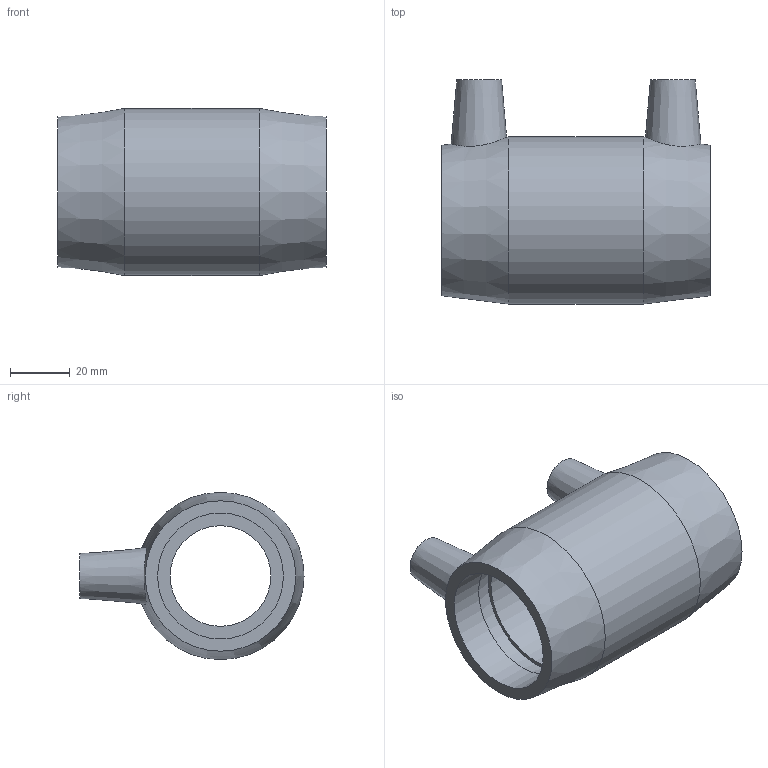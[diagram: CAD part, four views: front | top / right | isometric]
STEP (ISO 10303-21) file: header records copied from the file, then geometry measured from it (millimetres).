
FILE_DESCRIPTION(/* description */ ('PLASSON CTS COUPLER 1 1/4'''''),/* implementation_level */ '2;1');
FILE_NAME(/* name */ 'C:\Dropbox\KIMPROJECTS-Inventor 2019\99-16-3568-Processing Inch\ASTM ElectroFusion 2021\5901U\5901U004013.ipt.stp',/* time_stamp */ '2021-08-30T09:49:29+03:00',/* author */ ('KIM'),/* organization */ (''),/* preprocessor_version */ 'ST-DEVELOPER v17.2',/* originating_system */ 'Autodesk Inventor 2019',/* authorisation */ '');
FILE_SCHEMA (('AUTOMOTIVE_DESIGN { 1 0 10303 214 3 1 1 }'));
Length unit declared in the file: inch
Products named in the file (1): 5901U004013
Bounding box: 89.92 x 74.93 x 55.88 mm (x, y, z)
Volume: 92561.2 mm3; surface area: 33059.5 mm2
Topology: 1 solids, 1 shells, 28 faces, 62 edges, 46 vertices
Faces by surface type: plane 12, cylinder 10, cone 6
Full cylindrical faces by diameter (mm): 4 x2, 10 x2, 33.68 x1, 42.1 x4, 55.88 x1
Entity records: 927 total; most frequent: CARTESIAN_POINT 205, DIRECTION 158, ORIENTED_EDGE 124, AXIS2_PLACEMENT_3D 71, EDGE_CURVE 62, VERTEX_POINT 46, CIRCLE 42, EDGE_LOOP 40
